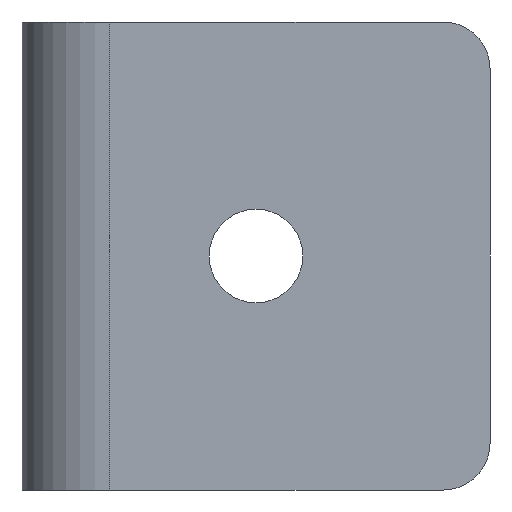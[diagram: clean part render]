
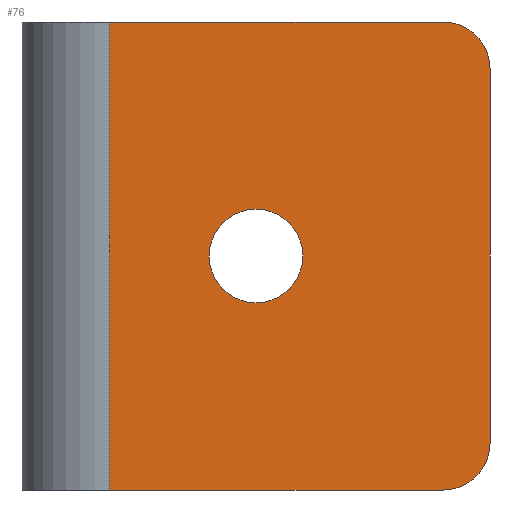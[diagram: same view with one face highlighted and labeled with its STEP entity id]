
A CAD part, front view. The second image highlights one B-rep face of the part: STEP entity #76.
In plain terms, the highlighted planar face has unit normal (0, -1, 0).
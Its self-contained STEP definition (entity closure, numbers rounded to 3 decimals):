
#76 = ADVANCED_FACE( '', ( #96, #97 ), #98, .F. );
#96 = FACE_BOUND( '', #140, .T. );
#97 = FACE_OUTER_BOUND( '', #141, .T. );
#98 = PLANE( '', #142 );
#140 = EDGE_LOOP( '', ( #189 ) );
#141 = EDGE_LOOP( '', ( #190, #191, #192, #193, #194, #195 ) );
#142 = AXIS2_PLACEMENT_3D( '', #196, #197, #198 );
#189 = ORIENTED_EDGE( '', *, *, #324, .F. );
#190 = ORIENTED_EDGE( '', *, *, #325, .T. );
#191 = ORIENTED_EDGE( '', *, *, #326, .F. );
#192 = ORIENTED_EDGE( '', *, *, #327, .F. );
#193 = ORIENTED_EDGE( '', *, *, #328, .F. );
#194 = ORIENTED_EDGE( '', *, *, #329, .F. );
#195 = ORIENTED_EDGE( '', *, *, #321, .T. );
#196 = CARTESIAN_POINT( '', ( 7.5, 0., 20. ) );
#197 = DIRECTION( '', ( 0., 1., 0. ) );
#198 = DIRECTION( '', ( 0., 0., 1. ) );
#321 = EDGE_CURVE( '', #365, #363, #366, .T. );
#324 = EDGE_CURVE( '', #370, #370, #371, .T. );
#325 = EDGE_CURVE( '', #363, #372, #373, .T. );
#326 = EDGE_CURVE( '', #374, #372, #375, .T. );
#327 = EDGE_CURVE( '', #376, #374, #377, .T. );
#328 = EDGE_CURVE( '', #378, #376, #379, .T. );
#329 = EDGE_CURVE( '', #365, #378, #380, .T. );
#363 = VERTEX_POINT( '', #435 );
#365 = VERTEX_POINT( '', #437 );
#366 = LINE( '', #438, #439 );
#370 = VERTEX_POINT( '', #444 );
#371 = CIRCLE( '', #445, 4. );
#372 = VERTEX_POINT( '', #446 );
#373 = LINE( '', #447, #448 );
#374 = VERTEX_POINT( '', #449 );
#375 = CIRCLE( '', #450, 4. );
#376 = VERTEX_POINT( '', #451 );
#377 = LINE( '', #452, #453 );
#378 = VERTEX_POINT( '', #454 );
#379 = CIRCLE( '', #455, 4. );
#380 = LINE( '', #456, #457 );
#435 = CARTESIAN_POINT( '', ( 7.5, 0., -20. ) );
#437 = CARTESIAN_POINT( '', ( 7.5, 0., 20. ) );
#438 = CARTESIAN_POINT( '', ( 7.5, 0., 20. ) );
#439 = VECTOR( '', #533, 1000. );
#444 = CARTESIAN_POINT( '', ( 20., 0., -4. ) );
#445 = AXIS2_PLACEMENT_3D( '', #538, #539, #540 );
#446 = CARTESIAN_POINT( '', ( 36., 0., -20. ) );
#447 = CARTESIAN_POINT( '', ( 7.5, 0., -20. ) );
#448 = VECTOR( '', #541, 1000. );
#449 = CARTESIAN_POINT( '', ( 40., 0., -16. ) );
#450 = AXIS2_PLACEMENT_3D( '', #542, #543, #544 );
#451 = CARTESIAN_POINT( '', ( 40., 0., 16. ) );
#452 = CARTESIAN_POINT( '', ( 40., 0., 20. ) );
#453 = VECTOR( '', #545, 1000. );
#454 = CARTESIAN_POINT( '', ( 36., 0., 20. ) );
#455 = AXIS2_PLACEMENT_3D( '', #546, #547, #548 );
#456 = CARTESIAN_POINT( '', ( 7.5, 0., 20. ) );
#457 = VECTOR( '', #549, 1000. );
#533 = DIRECTION( '', ( 0., 0., -1. ) );
#538 = CARTESIAN_POINT( '', ( 20., 0., 0. ) );
#539 = DIRECTION( '', ( 0., -1., 0. ) );
#540 = DIRECTION( '', ( 0., 0., -1. ) );
#541 = DIRECTION( '', ( 1., 0., 0. ) );
#542 = CARTESIAN_POINT( '', ( 36., 0., -16. ) );
#543 = DIRECTION( '', ( 0., 1., 0. ) );
#544 = DIRECTION( '', ( 1., 0., 0. ) );
#545 = DIRECTION( '', ( 0., 0., -1. ) );
#546 = CARTESIAN_POINT( '', ( 36., 0., 16. ) );
#547 = DIRECTION( '', ( 0., 1., 0. ) );
#548 = DIRECTION( '', ( 1., 0., 0. ) );
#549 = DIRECTION( '', ( 1., 0., 0. ) );
